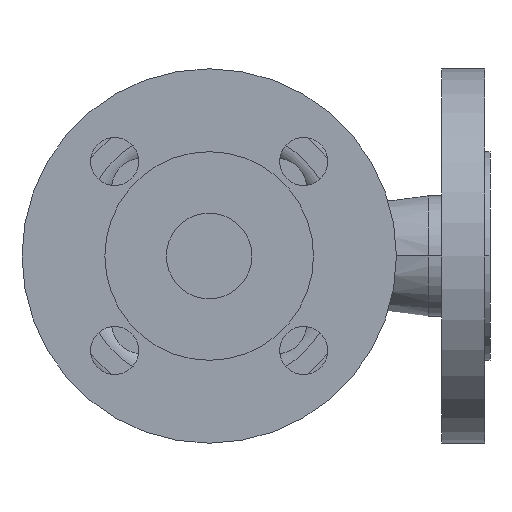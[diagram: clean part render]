
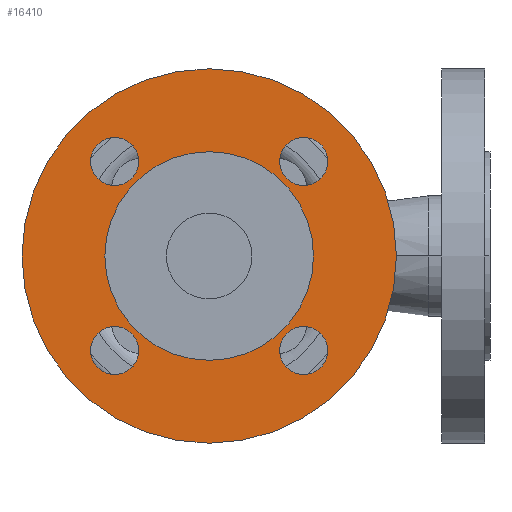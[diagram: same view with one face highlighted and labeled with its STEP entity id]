
A CAD part, front view. The second image highlights one B-rep face of the part: STEP entity #16410.
In plain terms, the highlighted planar face has unit normal (0, -1, 0).
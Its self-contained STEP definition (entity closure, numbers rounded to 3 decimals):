
#610=CARTESIAN_POINT('',(39.,2.,0.));
#620=VERTEX_POINT('',#610);
#780=CARTESIAN_POINT('',(-39.,2.,0.));
#790=VERTEX_POINT('',#780);
#820=CARTESIAN_POINT('',(0.,2.,0.));
#830=DIRECTION('',(0.,-1.,0.));
#840=DIRECTION('',(-1.,0.,0.));
#850=AXIS2_PLACEMENT_3D('',#820,#830,#840);
#860=CIRCLE('',#850,39.);
#870=EDGE_CURVE('',#620,#790,#860,.T.);
#3670=CARTESIAN_POINT('',(70.,2.,0.));
#3680=VERTEX_POINT('',#3670);
#3840=CARTESIAN_POINT('',(-70.,2.,0.));
#3850=VERTEX_POINT('',#3840);
#3880=CARTESIAN_POINT('',(0.,2.,0.));
#3890=DIRECTION('',(0.,1.,0.));
#3900=DIRECTION('',(1.,0.,0.));
#3910=AXIS2_PLACEMENT_3D('',#3880,#3890,#3900);
#3920=CIRCLE('',#3910,70.);
#3930=EDGE_CURVE('',#3680,#3850,#3920,.T.);
#4160=CARTESIAN_POINT('',(26.355,2.,-35.355));
#4170=VERTEX_POINT('',#4160);
#4330=CARTESIAN_POINT('',(44.355,2.,-35.355));
#4340=VERTEX_POINT('',#4330);
#4370=CARTESIAN_POINT('',(35.355,2.,-35.355));
#4380=DIRECTION('',(0.,1.,0.));
#4390=DIRECTION('',(1.,0.,0.));
#4400=AXIS2_PLACEMENT_3D('',#4370,#4380,#4390);
#4410=CIRCLE('',#4400,9.);
#4420=EDGE_CURVE('',#4340,#4170,#4410,.T.);
#4650=CARTESIAN_POINT('',(44.355,2.,35.355));
#4660=VERTEX_POINT('',#4650);
#4690=CARTESIAN_POINT('',(35.355,2.,35.355));
#4700=DIRECTION('',(0.,1.,0.));
#4710=DIRECTION('',(1.,0.,0.));
#4720=AXIS2_PLACEMENT_3D('',#4690,#4700,#4710);
#4730=CIRCLE('',#4720,9.);
#4740=CARTESIAN_POINT('',(26.355,2.,35.355));
#4750=VERTEX_POINT('',#4740);
#4760=EDGE_CURVE('',#4660,#4750,#4730,.T.);
#5140=CARTESIAN_POINT('',(-44.355,2.,-35.355));
#5150=VERTEX_POINT('',#5140);
#5310=CARTESIAN_POINT('',(-26.355,2.,-35.355));
#5320=VERTEX_POINT('',#5310);
#5350=CARTESIAN_POINT('',(-35.355,2.,-35.355));
#5360=DIRECTION('',(0.,1.,0.));
#5370=DIRECTION('',(1.,0.,0.));
#5380=AXIS2_PLACEMENT_3D('',#5350,#5360,#5370);
#5390=CIRCLE('',#5380,9.);
#5400=EDGE_CURVE('',#5320,#5150,#5390,.T.);
#5630=CARTESIAN_POINT('',(-44.355,2.,35.355));
#5640=VERTEX_POINT('',#5630);
#5800=CARTESIAN_POINT('',(-26.355,2.,35.355));
#5810=VERTEX_POINT('',#5800);
#5840=CARTESIAN_POINT('',(-35.355,2.,35.355));
#5850=DIRECTION('',(0.,1.,0.));
#5860=DIRECTION('',(1.,0.,0.));
#5870=AXIS2_PLACEMENT_3D('',#5840,#5850,#5860);
#5880=CIRCLE('',#5870,9.);
#5890=EDGE_CURVE('',#5810,#5640,#5880,.T.);
#16060=CARTESIAN_POINT('',(0.,2.,0.));
#16070=DIRECTION('',(0.,1.,0.));
#16080=DIRECTION('',(0.,0.,1.));
#16090=AXIS2_PLACEMENT_3D('',#16060,#16070,#16080);
#16100=PLANE('',#16090);
#16110=EDGE_CURVE('',#5640,#5810,#5880,.T.);
#16120=ORIENTED_EDGE('',*,*,#16110,.T.);
#16130=ORIENTED_EDGE('',*,*,#5890,.T.);
#16140=EDGE_LOOP('',(#16130,#16120));
#16150=FACE_BOUND('',#16140,.T.);
#16160=EDGE_CURVE('',#5150,#5320,#5390,.T.);
#16170=ORIENTED_EDGE('',*,*,#16160,.T.);
#16180=ORIENTED_EDGE('',*,*,#5400,.T.);
#16190=EDGE_LOOP('',(#16180,#16170));
#16200=FACE_BOUND('',#16190,.T.);
#16210=ORIENTED_EDGE('',*,*,#4760,.T.);
#16220=EDGE_CURVE('',#4750,#4660,#4730,.T.);
#16230=ORIENTED_EDGE('',*,*,#16220,.T.);
#16240=EDGE_LOOP('',(#16230,#16210));
#16250=FACE_BOUND('',#16240,.T.);
#16260=EDGE_CURVE('',#4170,#4340,#4410,.T.);
#16270=ORIENTED_EDGE('',*,*,#16260,.T.);
#16280=ORIENTED_EDGE('',*,*,#4420,.T.);
#16290=EDGE_LOOP('',(#16280,#16270));
#16300=FACE_BOUND('',#16290,.T.);
#16310=EDGE_CURVE('',#3850,#3680,#3920,.T.);
#16320=ORIENTED_EDGE('',*,*,#16310,.F.);
#16330=ORIENTED_EDGE('',*,*,#3930,.F.);
#16340=EDGE_LOOP('',(#16330,#16320));
#16350=FACE_OUTER_BOUND('',#16340,.T.);
#16360=EDGE_CURVE('',#790,#620,#860,.T.);
#16370=ORIENTED_EDGE('',*,*,#16360,.F.);
#16380=ORIENTED_EDGE('',*,*,#870,.F.);
#16390=EDGE_LOOP('',(#16380,#16370));
#16400=FACE_BOUND('',#16390,.T.);
#16410=ADVANCED_FACE('',(#16150,#16200,#16250,#16300,#16350,#16400),
#16100,.F.);
